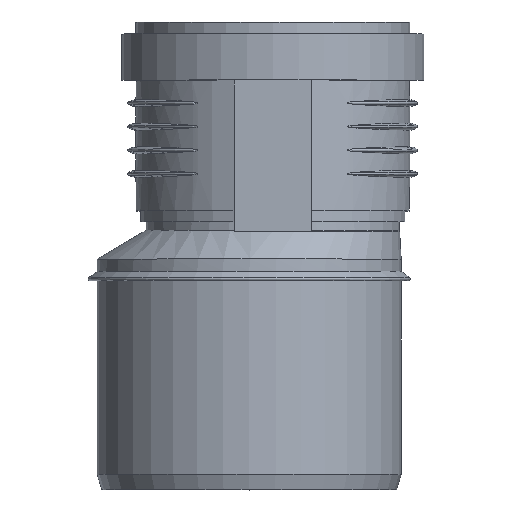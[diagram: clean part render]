
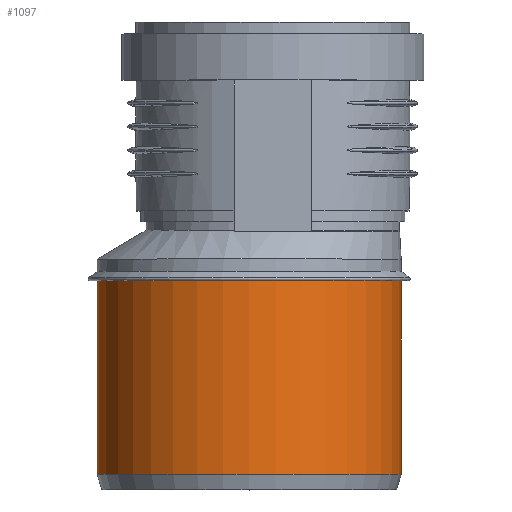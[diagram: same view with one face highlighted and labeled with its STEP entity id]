
A CAD part, top view. The second image highlights one B-rep face of the part: STEP entity #1097.
In plain terms, the highlighted cylindrical face has radius 45.1 mm (diameter 90.2 mm), a full revolution.
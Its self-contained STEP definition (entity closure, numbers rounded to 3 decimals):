
#124=CYLINDRICAL_SURFACE($,#1182,45.1);
#148=FACE_BOUND($,#277,.T.);
#208=FACE_OUTER_BOUND($,#276,.T.);
#276=EDGE_LOOP($,(#755));
#277=EDGE_LOOP($,(#756));
#427=CIRCLE($,#1181,45.1);
#428=CIRCLE($,#1183,45.1);
#486=VERTEX_POINT($,#1660);
#487=VERTEX_POINT($,#1663);
#599=EDGE_CURVE($,#486,#486,#427,.T.);
#600=EDGE_CURVE($,#487,#487,#428,.T.);
#755=ORIENTED_EDGE($,*,*,#600,.F.);
#756=ORIENTED_EDGE($,*,*,#599,.T.);
#1097=ADVANCED_FACE($,(#208,#148),#124,.T.);
#1181=AXIS2_PLACEMENT_3D($,#1661,#1331,#1332);
#1182=AXIS2_PLACEMENT_3D($,#1662,#1333,#1334);
#1183=AXIS2_PLACEMENT_3D($,#1664,#1335,#1336);
#1331=DIRECTION('center_axis',(0.,-1.,0.));
#1332=DIRECTION('ref_axis',(1.,0.,0.));
#1333=DIRECTION('center_axis',(0.,-1.,0.));
#1334=DIRECTION('ref_axis',(1.,0.,0.));
#1335=DIRECTION('center_axis',(0.,-1.,0.));
#1336=DIRECTION('ref_axis',(1.,0.,0.));
#1660=CARTESIAN_POINT('',(45.1,62.,0.));
#1661=CARTESIAN_POINT('Origin',(0.,62.,0.));
#1662=CARTESIAN_POINT('Origin',(0.,33.25,0.));
#1663=CARTESIAN_POINT('',(45.1,4.5,0.));
#1664=CARTESIAN_POINT('Origin',(0.,4.5,0.));
